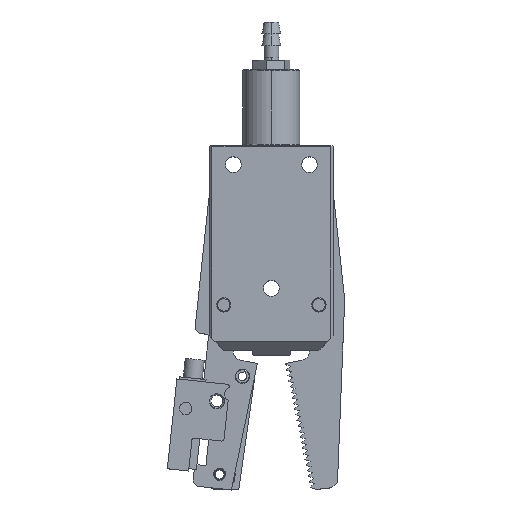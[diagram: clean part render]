
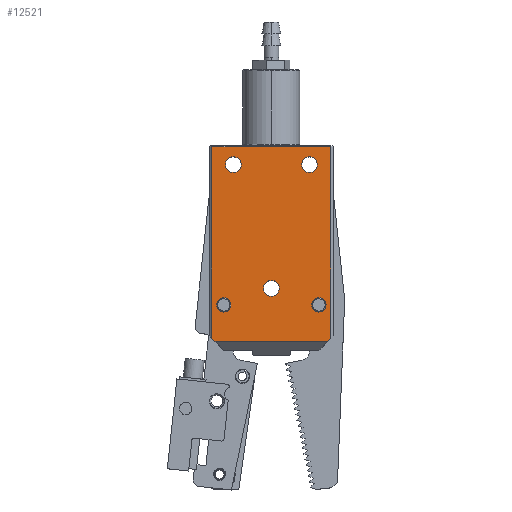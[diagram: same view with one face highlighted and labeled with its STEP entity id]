
A CAD part, top view. The second image highlights one B-rep face of the part: STEP entity #12521.
In plain terms, the highlighted planar face has unit normal (0, 0, 1).
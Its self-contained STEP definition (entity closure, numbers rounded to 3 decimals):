
#388 = CARTESIAN_POINT ( 'NONE',  ( -9.019, -9.421, 66.7 ) ) ;
#912 = FACE_BOUND ( 'NONE', #26913, .T. ) ;
#947 = VERTEX_POINT ( 'NONE', #3329 ) ;
#1071 = AXIS2_PLACEMENT_3D ( 'NONE', #38599, #17727, #42136 ) ;
#1108 = ORIENTED_EDGE ( 'NONE', *, *, #37635, .F. ) ;
#1580 = VERTEX_POINT ( 'NONE', #5150 ) ;
#2428 = VERTEX_POINT ( 'NONE', #10413 ) ;
#2642 = CARTESIAN_POINT ( 'NONE',  ( -1.019, 14.929, 66.7 ) ) ;
#2809 = CIRCLE ( 'NONE', #13639, 1.65 ) ;
#3010 = CARTESIAN_POINT ( 'NONE',  ( 3.481, -20.571, 66.7 ) ) ;
#3288 = EDGE_CURVE ( 'NONE', #41362, #33049, #6153, .T. ) ;
#3329 = CARTESIAN_POINT ( 'NONE',  ( -9.019, -11.071, 66.7 ) ) ;
#3549 = VECTOR ( 'NONE', #23627, 1000. ) ;
#3594 = DIRECTION ( 'NONE',  ( 0., -1., 0. ) ) ;
#3854 = DIRECTION ( 'NONE',  ( 0., 1., 0. ) ) ;
#4211 = CIRCLE ( 'NONE', #28220, 1.65 ) ;
#4341 = VERTEX_POINT ( 'NONE', #18294 ) ;
#4511 = ORIENTED_EDGE ( 'NONE', *, *, #35557, .T. ) ;
#5042 = CARTESIAN_POINT ( 'NONE',  ( 0.981, -12.921, 66.7 ) ) ;
#5150 = CARTESIAN_POINT ( 'NONE',  ( -21.519, 20.379, 66.7 ) ) ;
#5905 = CIRCLE ( 'NONE', #11908, 1.5 ) ;
#6153 = CIRCLE ( 'NONE', #36004, 1.65 ) ;
#6539 = DIRECTION ( 'NONE',  ( -1., 0., 0. ) ) ;
#6599 = AXIS2_PLACEMENT_3D ( 'NONE', #3010, #27372, #6539 ) ;
#6833 = CARTESIAN_POINT ( 'NONE',  ( -21.519, -19.921, 66.7 ) ) ;
#7206 = CARTESIAN_POINT ( 'NONE',  ( -9.019, -9.421, 66.7 ) ) ;
#7364 = EDGE_CURVE ( 'NONE', #26809, #12450, #21864, .T. ) ;
#7459 = VECTOR ( 'NONE', #36867, 1000. ) ;
#7745 = VERTEX_POINT ( 'NONE', #30531 ) ;
#8165 = EDGE_CURVE ( 'NONE', #28205, #19928, #5905, .T. ) ;
#8526 = DIRECTION ( 'NONE',  ( 0., 1., 0. ) ) ;
#8598 = LINE ( 'NONE', #41828, #44509 ) ;
#8635 = CARTESIAN_POINT ( 'NONE',  ( -20.519, -20.921, 66.7 ) ) ;
#8932 = DIRECTION ( 'NONE',  ( 0., 0., 1. ) ) ;
#8990 = LINE ( 'NONE', #41196, #26391 ) ;
#9075 = FACE_BOUND ( 'NONE', #11067, .T. ) ;
#9270 = CARTESIAN_POINT ( 'NONE',  ( -17.019, 18.229, 66.7 ) ) ;
#9739 = PLANE ( 'NONE',  #6599 ) ;
#9767 = CARTESIAN_POINT ( 'NONE',  ( -1.019, 18.229, 66.7 ) ) ;
#10321 = EDGE_CURVE ( 'NONE', #4341, #10824, #8598, .T. ) ;
#10413 = CARTESIAN_POINT ( 'NONE',  ( -9.019, -7.771, 66.7 ) ) ;
#10481 = ORIENTED_EDGE ( 'NONE', *, *, #27359, .F. ) ;
#10693 = DIRECTION ( 'NONE',  ( 0., 0., 1. ) ) ;
#10705 = DIRECTION ( 'NONE',  ( 0., 1., 0. ) ) ;
#10824 = VERTEX_POINT ( 'NONE', #34006 ) ;
#10916 = CARTESIAN_POINT ( 'NONE',  ( -1.019, 16.579, 66.7 ) ) ;
#11067 = EDGE_LOOP ( 'NONE', ( #42588, #20246 ) ) ;
#11204 = DIRECTION ( 'NONE',  ( 0., 0., 1. ) ) ;
#11904 = AXIS2_PLACEMENT_3D ( 'NONE', #7206, #31532, #10705 ) ;
#11908 = AXIS2_PLACEMENT_3D ( 'NONE', #29737, #8932, #33277 ) ;
#12119 = CIRCLE ( 'NONE', #22302, 1.5 ) ;
#12342 = CARTESIAN_POINT ( 'NONE',  ( -21.519, -0.096, 66.7 ) ) ;
#12421 = CARTESIAN_POINT ( 'NONE',  ( 2.831, -20.571, 66.7 ) ) ;
#12450 = VERTEX_POINT ( 'NONE', #25092 ) ;
#12491 = CARTESIAN_POINT ( 'NONE',  ( 2.481, -20.921, 66.7 ) ) ;
#12521 = ADVANCED_FACE ( 'NONE', ( #27577, #18287, #36861, #912, #9075, #44985 ), #9739, .F. ) ;
#12637 = EDGE_CURVE ( 'NONE', #37124, #7745, #28615, .T. ) ;
#12725 = ORIENTED_EDGE ( 'NONE', *, *, #16930, .F. ) ;
#12903 = CIRCLE ( 'NONE', #31056, 1.65 ) ;
#13219 = CARTESIAN_POINT ( 'NONE',  ( 0.981, -14.421, 66.7 ) ) ;
#13255 = CARTESIAN_POINT ( 'NONE',  ( -9.019, 20.379, 66.7 ) ) ;
#13465 = EDGE_CURVE ( 'NONE', #7745, #37124, #44766, .T. ) ;
#13634 = LINE ( 'NONE', #8635, #31012 ) ;
#13639 = AXIS2_PLACEMENT_3D ( 'NONE', #10916, #35256, #14437 ) ;
#13658 = CARTESIAN_POINT ( 'NONE',  ( -17.019, 16.579, 66.7 ) ) ;
#14151 = CARTESIAN_POINT ( 'NONE',  ( 0.981, -11.421, 66.7 ) ) ;
#14437 = DIRECTION ( 'NONE',  ( 0., 1., 0. ) ) ;
#15863 = CARTESIAN_POINT ( 'NONE',  ( -19.019, -12.921, 66.7 ) ) ;
#16761 = DIRECTION ( 'NONE',  ( -1., 0., 0. ) ) ;
#16930 = EDGE_CURVE ( 'NONE', #17771, #1580, #22068, .T. ) ;
#16969 = VECTOR ( 'NONE', #23765, 1000. ) ;
#17097 = DIRECTION ( 'NONE',  ( 0., 1., 0. ) ) ;
#17436 = ORIENTED_EDGE ( 'NONE', *, *, #21826, .F. ) ;
#17623 = EDGE_LOOP ( 'NONE', ( #26073, #1108 ) ) ;
#17727 = DIRECTION ( 'NONE',  ( 0., 0., 1. ) ) ;
#17771 = VERTEX_POINT ( 'NONE', #6833 ) ;
#18287 = FACE_BOUND ( 'NONE', #17623, .T. ) ;
#18294 = CARTESIAN_POINT ( 'NONE',  ( 3.481, 20.379, 66.7 ) ) ;
#18410 = EDGE_CURVE ( 'NONE', #2428, #947, #12903, .T. ) ;
#19086 = ORIENTED_EDGE ( 'NONE', *, *, #3288, .F. ) ;
#19338 = EDGE_LOOP ( 'NONE', ( #33896, #10481, #4511, #27381, #22496, #12725 ) ) ;
#19375 = DIRECTION ( 'NONE',  ( 0., 1., 0. ) ) ;
#19928 = VERTEX_POINT ( 'NONE', #13219 ) ;
#20246 = ORIENTED_EDGE ( 'NONE', *, *, #13465, .F. ) ;
#21826 = EDGE_CURVE ( 'NONE', #33049, #41362, #2809, .T. ) ;
#21864 = CIRCLE ( 'NONE', #33719, 1.65 ) ;
#22068 = LINE ( 'NONE', #12342, #3549 ) ;
#22302 = AXIS2_PLACEMENT_3D ( 'NONE', #5042, #29357, #8526 ) ;
#22496 = ORIENTED_EDGE ( 'NONE', *, *, #28040, .F. ) ;
#23608 = VERTEX_POINT ( 'NONE', #12421 ) ;
#23627 = DIRECTION ( 'NONE',  ( 0., 1., 0. ) ) ;
#23765 = DIRECTION ( 'NONE',  ( 1., 0., 0. ) ) ;
#24705 = DIRECTION ( 'NONE',  ( 0., 0., 1. ) ) ;
#24715 = AXIS2_PLACEMENT_3D ( 'NONE', #15863, #40242, #19375 ) ;
#24761 = EDGE_LOOP ( 'NONE', ( #28208, #44016 ) ) ;
#25092 = CARTESIAN_POINT ( 'NONE',  ( -17.019, 14.929, 66.7 ) ) ;
#25503 = EDGE_CURVE ( 'NONE', #17771, #33340, #13634, .T. ) ;
#25679 = ORIENTED_EDGE ( 'NONE', *, *, #30404, .F. ) ;
#26073 = ORIENTED_EDGE ( 'NONE', *, *, #7364, .F. ) ;
#26391 = VECTOR ( 'NONE', #16761, 1000. ) ;
#26809 = VERTEX_POINT ( 'NONE', #9270 ) ;
#26913 = EDGE_LOOP ( 'NONE', ( #44704, #25679 ) ) ;
#27356 = LINE ( 'NONE', #13255, #16969 ) ;
#27359 = EDGE_CURVE ( 'NONE', #23608, #33340, #8990, .T. ) ;
#27372 = DIRECTION ( 'NONE',  ( 0., 0., -1. ) ) ;
#27381 = ORIENTED_EDGE ( 'NONE', *, *, #10321, .F. ) ;
#27498 = EDGE_CURVE ( 'NONE', #947, #2428, #39991, .T. ) ;
#27577 = FACE_BOUND ( 'NONE', #24761, .T. ) ;
#28040 = EDGE_CURVE ( 'NONE', #1580, #4341, #27356, .T. ) ;
#28205 = VERTEX_POINT ( 'NONE', #14151 ) ;
#28208 = ORIENTED_EDGE ( 'NONE', *, *, #18410, .F. ) ;
#28220 = AXIS2_PLACEMENT_3D ( 'NONE', #32039, #11204, #35538 ) ;
#28615 = CIRCLE ( 'NONE', #1071, 1.5 ) ;
#29068 = CARTESIAN_POINT ( 'NONE',  ( -20.869, -20.571, 66.7 ) ) ;
#29357 = DIRECTION ( 'NONE',  ( 0., 0., 1. ) ) ;
#29455 = DIRECTION ( 'NONE',  ( 0.707, -0.707, 0. ) ) ;
#29737 = CARTESIAN_POINT ( 'NONE',  ( 0.981, -12.921, 66.7 ) ) ;
#30404 = EDGE_CURVE ( 'NONE', #19928, #28205, #12119, .T. ) ;
#30531 = CARTESIAN_POINT ( 'NONE',  ( -19.019, -14.421, 66.7 ) ) ;
#31012 = VECTOR ( 'NONE', #29455, 1000. ) ;
#31056 = AXIS2_PLACEMENT_3D ( 'NONE', #388, #24705, #3854 ) ;
#31523 = CARTESIAN_POINT ( 'NONE',  ( -1.019, 16.579, 66.7 ) ) ;
#31532 = DIRECTION ( 'NONE',  ( 0., 0., 1. ) ) ;
#32039 = CARTESIAN_POINT ( 'NONE',  ( -17.019, 16.579, 66.7 ) ) ;
#33049 = VERTEX_POINT ( 'NONE', #2642 ) ;
#33277 = DIRECTION ( 'NONE',  ( 0., 1., 0. ) ) ;
#33340 = VERTEX_POINT ( 'NONE', #29068 ) ;
#33719 = AXIS2_PLACEMENT_3D ( 'NONE', #13658, #37975, #17097 ) ;
#33896 = ORIENTED_EDGE ( 'NONE', *, *, #25503, .T. ) ;
#34006 = CARTESIAN_POINT ( 'NONE',  ( 3.481, -19.921, 66.7 ) ) ;
#35032 = DIRECTION ( 'NONE',  ( 0., 1., 0. ) ) ;
#35256 = DIRECTION ( 'NONE',  ( 0., 0., 1. ) ) ;
#35538 = DIRECTION ( 'NONE',  ( 0., 1., 0. ) ) ;
#35557 = EDGE_CURVE ( 'NONE', #23608, #10824, #44478, .T. ) ;
#36004 = AXIS2_PLACEMENT_3D ( 'NONE', #31523, #10693, #35032 ) ;
#36861 = FACE_BOUND ( 'NONE', #40560, .T. ) ;
#36867 = DIRECTION ( 'NONE',  ( 0.707, 0.707, 0. ) ) ;
#37124 = VERTEX_POINT ( 'NONE', #38928 ) ;
#37635 = EDGE_CURVE ( 'NONE', #12450, #26809, #4211, .T. ) ;
#37975 = DIRECTION ( 'NONE',  ( 0., 0., 1. ) ) ;
#38599 = CARTESIAN_POINT ( 'NONE',  ( -19.019, -12.921, 66.7 ) ) ;
#38928 = CARTESIAN_POINT ( 'NONE',  ( -19.019, -11.421, 66.7 ) ) ;
#39991 = CIRCLE ( 'NONE', #11904, 1.65 ) ;
#40242 = DIRECTION ( 'NONE',  ( 0., 0., 1. ) ) ;
#40560 = EDGE_LOOP ( 'NONE', ( #19086, #17436 ) ) ;
#41196 = CARTESIAN_POINT ( 'NONE',  ( -9.019, -20.571, 66.7 ) ) ;
#41362 = VERTEX_POINT ( 'NONE', #9767 ) ;
#41828 = CARTESIAN_POINT ( 'NONE',  ( 3.481, -0.096, 66.7 ) ) ;
#42136 = DIRECTION ( 'NONE',  ( 0., 1., 0. ) ) ;
#42588 = ORIENTED_EDGE ( 'NONE', *, *, #12637, .F. ) ;
#44016 = ORIENTED_EDGE ( 'NONE', *, *, #27498, .F. ) ;
#44478 = LINE ( 'NONE', #12491, #7459 ) ;
#44509 = VECTOR ( 'NONE', #3594, 1000. ) ;
#44704 = ORIENTED_EDGE ( 'NONE', *, *, #8165, .F. ) ;
#44766 = CIRCLE ( 'NONE', #24715, 1.5 ) ;
#44985 = FACE_OUTER_BOUND ( 'NONE', #19338, .T. ) ;
